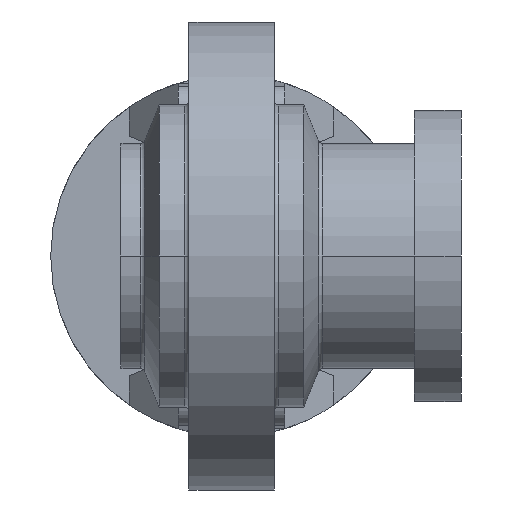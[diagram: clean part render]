
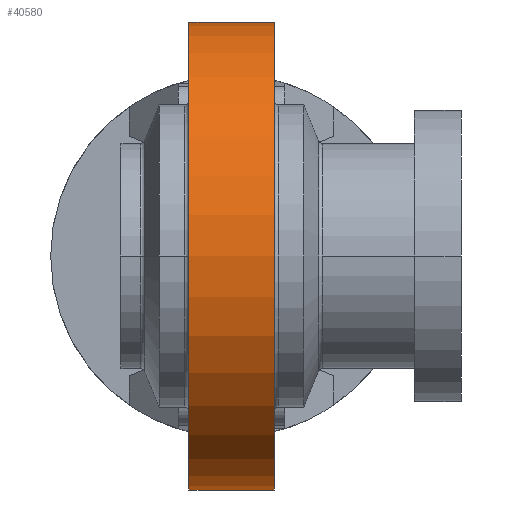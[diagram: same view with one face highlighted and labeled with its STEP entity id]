
A CAD part, front view. The second image highlights one B-rep face of the part: STEP entity #40580.
In plain terms, the highlighted cylindrical face has radius 55 mm (diameter 110 mm), a partial arc.
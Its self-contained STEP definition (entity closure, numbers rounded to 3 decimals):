
#1490=CARTESIAN_POINT('',(82.018,44.265,0.));
#1500=DIRECTION('',(1.,0.,0.));
#1510=DIRECTION('',(0.,0.,-1.));
#1520=AXIS2_PLACEMENT_3D('',#1490,#1500,#1510);
#1530=CIRCLE('',#1520,55.);
#4540=CARTESIAN_POINT('',(62.018,44.265,0.));
#4550=DIRECTION('',(1.,0.,0.));
#4560=DIRECTION('',(0.,0.,-1.));
#4570=AXIS2_PLACEMENT_3D('',#4540,#4550,#4560);
#4580=CIRCLE('',#4570,55.);
#4850=CARTESIAN_POINT('',(62.018,99.265,0.));
#4860=VERTEX_POINT('',#4850);
#4890=CARTESIAN_POINT('',(67.018,99.265,0.));
#4900=DIRECTION('',(1.,0.,0.));
#4910=VECTOR('',#4900,1.);
#4920=LINE('',#4890,#4910);
#4930=CARTESIAN_POINT('',(82.018,99.265,0.));
#4940=VERTEX_POINT('',#4930);
#4950=EDGE_CURVE('',#4860,#4940,#4920,.T.);
#6080=CARTESIAN_POINT('',(62.018,-10.735,0.));
#6090=VERTEX_POINT('',#6080);
#6120=EDGE_CURVE('',#6090,#4860,#4580,.T.);
#8340=CARTESIAN_POINT('',(82.018,-10.735,0.));
#8350=VERTEX_POINT('',#8340);
#8360=EDGE_CURVE('',#8350,#4940,#1530,.T.);
#40420=CARTESIAN_POINT('',(67.018,44.265,0.));
#40430=DIRECTION('',(1.,0.,0.));
#40440=DIRECTION('',(0.,-1.,0.));
#40450=AXIS2_PLACEMENT_3D('',#40420,#40430,#40440);
#40460=CYLINDRICAL_SURFACE('',#40450,55.);
#40470=ORIENTED_EDGE('',*,*,#8360,.F.);
#40480=ORIENTED_EDGE('',*,*,#4950,.T.);
#40490=ORIENTED_EDGE('',*,*,#6120,.T.);
#40500=CARTESIAN_POINT('',(67.018,-10.735,0.));
#40510=DIRECTION('',(1.,0.,0.));
#40520=VECTOR('',#40510,1.);
#40530=LINE('',#40500,#40520);
#40540=EDGE_CURVE('',#6090,#8350,#40530,.T.);
#40550=ORIENTED_EDGE('',*,*,#40540,.F.);
#40560=EDGE_LOOP('',(#40550,#40490,#40480,#40470));
#40570=FACE_OUTER_BOUND('',#40560,.T.);
#40580=ADVANCED_FACE('',(#40570),#40460,.T.);
